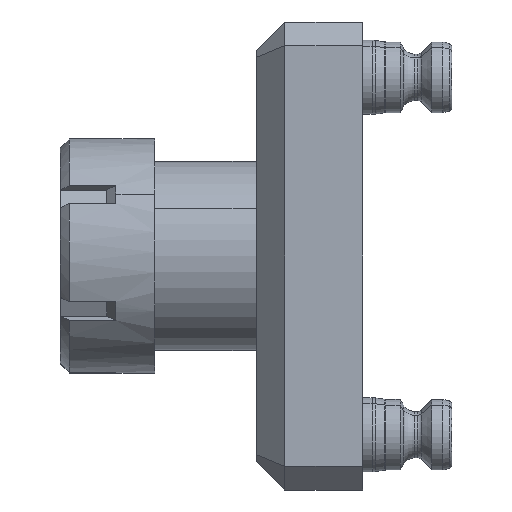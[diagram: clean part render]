
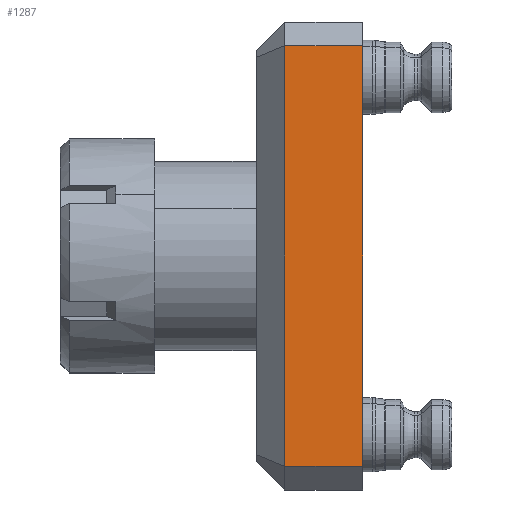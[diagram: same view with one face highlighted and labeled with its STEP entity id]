
A CAD part, left-side view. The second image highlights one B-rep face of the part: STEP entity #1287.
In plain terms, the highlighted planar face has unit normal (-1, 0, 0).
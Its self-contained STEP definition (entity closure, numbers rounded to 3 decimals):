
#158 = EDGE_LOOP ( 'NONE', ( #678, #12364, #11955, #5837 ) ) ;
#678 = ORIENTED_EDGE ( 'NONE', *, *, #9375, .T. ) ;
#1224 = DIRECTION ( 'NONE',  ( 0., 0., -1. ) ) ;
#1287 = ADVANCED_FACE ( 'NONE', ( #12361 ), #12299, .F. ) ;
#2184 = DIRECTION ( 'NONE',  ( 0., -1., 0. ) ) ;
#2600 = CARTESIAN_POINT ( 'NONE',  ( -62.865, 20.955, -56.515 ) ) ;
#2630 = DIRECTION ( 'NONE',  ( 0., 0., 1. ) ) ;
#2763 = DIRECTION ( 'NONE',  ( 0., 1., 0. ) ) ;
#3183 = CARTESIAN_POINT ( 'NONE',  ( -62.865, 28.575, -62.865 ) ) ;
#3240 = VECTOR ( 'NONE', #2763, 1000. ) ;
#3705 = VERTEX_POINT ( 'NONE', #5526 ) ;
#3798 = VECTOR ( 'NONE', #2184, 1000. ) ;
#4068 = DIRECTION ( 'NONE',  ( 1., 0., 0. ) ) ;
#4188 = CARTESIAN_POINT ( 'NONE',  ( -62.865, 0., -56.515 ) ) ;
#4364 = EDGE_CURVE ( 'NONE', #10133, #8900, #7464, .T. ) ;
#4530 = EDGE_CURVE ( 'NONE', #11327, #3705, #6141, .T. ) ;
#5088 = CARTESIAN_POINT ( 'NONE',  ( -62.865, 20.955, -56.515 ) ) ;
#5526 = CARTESIAN_POINT ( 'NONE',  ( -62.865, 0., 56.515 ) ) ;
#5837 = ORIENTED_EDGE ( 'NONE', *, *, #4530, .T. ) ;
#6141 = LINE ( 'NONE', #7427, #9884 ) ;
#6144 = LINE ( 'NONE', #12285, #3240 ) ;
#6446 = VECTOR ( 'NONE', #11352, 1000. ) ;
#6502 = AXIS2_PLACEMENT_3D ( 'NONE', #3183, #4068, #1224 ) ;
#6694 = LINE ( 'NONE', #8186, #3798 ) ;
#7427 = CARTESIAN_POINT ( 'NONE',  ( -62.865, 0., -62.865 ) ) ;
#7464 = LINE ( 'NONE', #2600, #6446 ) ;
#8186 = CARTESIAN_POINT ( 'NONE',  ( -62.865, 28.575, -56.515 ) ) ;
#8900 = VERTEX_POINT ( 'NONE', #5088 ) ;
#9375 = EDGE_CURVE ( 'NONE', #3705, #10133, #6144, .T. ) ;
#9884 = VECTOR ( 'NONE', #2630, 1000. ) ;
#10133 = VERTEX_POINT ( 'NONE', #10635 ) ;
#10635 = CARTESIAN_POINT ( 'NONE',  ( -62.865, 20.955, 56.515 ) ) ;
#11327 = VERTEX_POINT ( 'NONE', #4188 ) ;
#11352 = DIRECTION ( 'NONE',  ( 0., 0., -1. ) ) ;
#11955 = ORIENTED_EDGE ( 'NONE', *, *, #12147, .T. ) ;
#12147 = EDGE_CURVE ( 'NONE', #8900, #11327, #6694, .T. ) ;
#12285 = CARTESIAN_POINT ( 'NONE',  ( -62.865, 28.575, 56.515 ) ) ;
#12299 = PLANE ( 'NONE',  #6502 ) ;
#12361 = FACE_OUTER_BOUND ( 'NONE', #158, .T. ) ;
#12364 = ORIENTED_EDGE ( 'NONE', *, *, #4364, .T. ) ;
